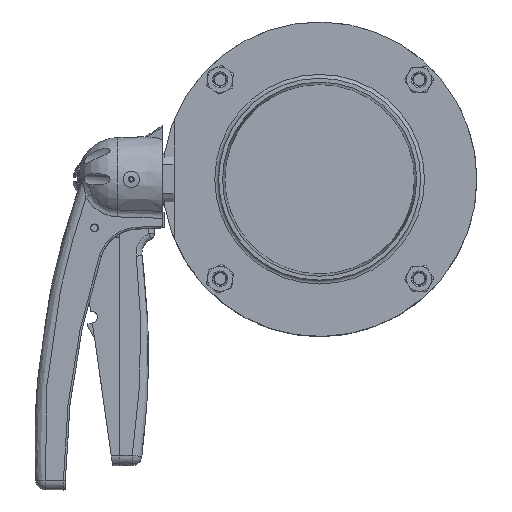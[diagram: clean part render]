
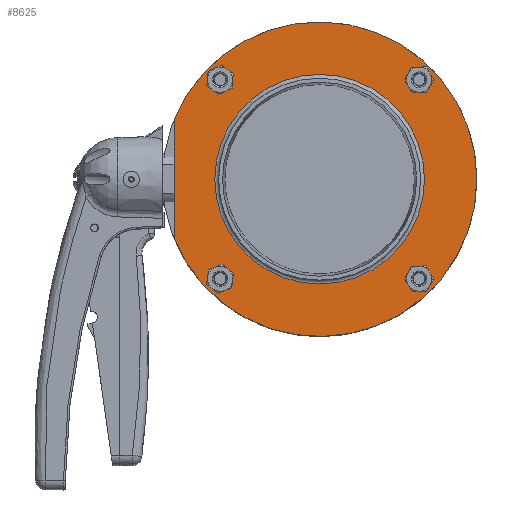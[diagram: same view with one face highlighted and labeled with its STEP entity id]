
A CAD part, top view. The second image highlights one B-rep face of the part: STEP entity #8625.
In plain terms, the highlighted planar face has unit normal (0, 0, 1) as drawn and (0, -1, 0) by its records, which use the part's own axes.
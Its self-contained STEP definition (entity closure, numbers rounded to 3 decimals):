
#1552=LINE('',#23733,#2131);
#2131=VECTOR('',#11476,10.);
#2208=FACE_BOUND('',#3177,.T.);
#2209=FACE_BOUND('',#3178,.T.);
#2210=FACE_BOUND('',#3179,.T.);
#2211=FACE_BOUND('',#3180,.T.);
#2212=FACE_BOUND('',#3181,.T.);
#2651=FACE_OUTER_BOUND('',#3176,.T.);
#3176=EDGE_LOOP('',(#7775,#7776));
#3177=EDGE_LOOP('',(#7777));
#3178=EDGE_LOOP('',(#7778));
#3179=EDGE_LOOP('',(#7779));
#3180=EDGE_LOOP('',(#7780));
#3181=EDGE_LOOP('',(#7781));
#3497=CIRCLE('',#9485,4.25);
#3499=CIRCLE('',#9488,4.25);
#3501=CIRCLE('',#9491,4.25);
#3503=CIRCLE('',#9494,4.25);
#3513=CIRCLE('',#9512,54.);
#3514=CIRCLE('',#9514,81.);
#4242=VERTEX_POINT('',#23705);
#4244=VERTEX_POINT('',#23711);
#4246=VERTEX_POINT('',#23717);
#4248=VERTEX_POINT('',#23723);
#4250=VERTEX_POINT('',#23729);
#4252=VERTEX_POINT('',#23732);
#4260=VERTEX_POINT('',#23761);
#5412=EDGE_CURVE('',#4242,#4242,#3497,.T.);
#5415=EDGE_CURVE('',#4244,#4244,#3499,.T.);
#5418=EDGE_CURVE('',#4246,#4246,#3501,.T.);
#5421=EDGE_CURVE('',#4248,#4248,#3503,.T.);
#5425=EDGE_CURVE('',#4252,#4250,#1552,.T.);
#5440=EDGE_CURVE('',#4260,#4260,#3513,.T.);
#5441=EDGE_CURVE('',#4252,#4250,#3514,.T.);
#7775=ORIENTED_EDGE('',*,*,#5425,.T.);
#7776=ORIENTED_EDGE('',*,*,#5441,.F.);
#7777=ORIENTED_EDGE('',*,*,#5412,.T.);
#7778=ORIENTED_EDGE('',*,*,#5415,.T.);
#7779=ORIENTED_EDGE('',*,*,#5418,.T.);
#7780=ORIENTED_EDGE('',*,*,#5421,.T.);
#7781=ORIENTED_EDGE('',*,*,#5440,.T.);
#8172=PLANE('',#9513);
#8625=ADVANCED_FACE('',(#2651,#2208,#2209,#2210,#2211,#2212),#8172,.T.);
#9485=AXIS2_PLACEMENT_3D('',#23706,#11447,#11448);
#9488=AXIS2_PLACEMENT_3D('',#23712,#11454,#11455);
#9491=AXIS2_PLACEMENT_3D('',#23718,#11461,#11462);
#9494=AXIS2_PLACEMENT_3D('',#23724,#11468,#11469);
#9512=AXIS2_PLACEMENT_3D('',#23763,#11513,#11514);
#9513=AXIS2_PLACEMENT_3D('',#23764,#11515,#11516);
#9514=AXIS2_PLACEMENT_3D('',#23765,#11517,#11518);
#11447=DIRECTION('center_axis',(0.,1.,0.));
#11448=DIRECTION('ref_axis',(-1.,0.,0.));
#11454=DIRECTION('center_axis',(0.,1.,0.));
#11455=DIRECTION('ref_axis',(-1.,0.,0.));
#11461=DIRECTION('center_axis',(0.,1.,0.));
#11462=DIRECTION('ref_axis',(-1.,0.,0.));
#11468=DIRECTION('center_axis',(0.,1.,0.));
#11469=DIRECTION('ref_axis',(-1.,0.,0.));
#11476=DIRECTION('',(-1.,0.,0.));
#11513=DIRECTION('center_axis',(0.,1.,0.));
#11514=DIRECTION('ref_axis',(1.,0.,0.));
#11515=DIRECTION('center_axis',(0.,-1.,0.));
#11516=DIRECTION('ref_axis',(0.,0.,-1.));
#11517=DIRECTION('center_axis',(0.,1.,0.));
#11518=DIRECTION('ref_axis',(1.,0.,0.));
#23705=CARTESIAN_POINT('',(55.515,-10.,-51.265));
#23706=CARTESIAN_POINT('Origin',(51.265,-10.,-51.265));
#23711=CARTESIAN_POINT('',(-47.015,-10.,51.265));
#23712=CARTESIAN_POINT('Origin',(-51.265,-10.,51.265));
#23717=CARTESIAN_POINT('',(55.515,-10.,51.265));
#23718=CARTESIAN_POINT('Origin',(51.265,-10.,51.265));
#23723=CARTESIAN_POINT('',(-47.015,-10.,-51.265));
#23724=CARTESIAN_POINT('Origin',(-51.265,-10.,-51.265));
#23729=CARTESIAN_POINT('',(-30.594,-10.,75.));
#23732=CARTESIAN_POINT('',(30.594,-10.,75.));
#23733=CARTESIAN_POINT('',(0.,-10.,75.));
#23761=CARTESIAN_POINT('',(0.,-10.,-54.));
#23763=CARTESIAN_POINT('Origin',(0.,-10.,0.));
#23764=CARTESIAN_POINT('Origin',(0.,-10.,81.));
#23765=CARTESIAN_POINT('Origin',(0.,-10.,0.));
